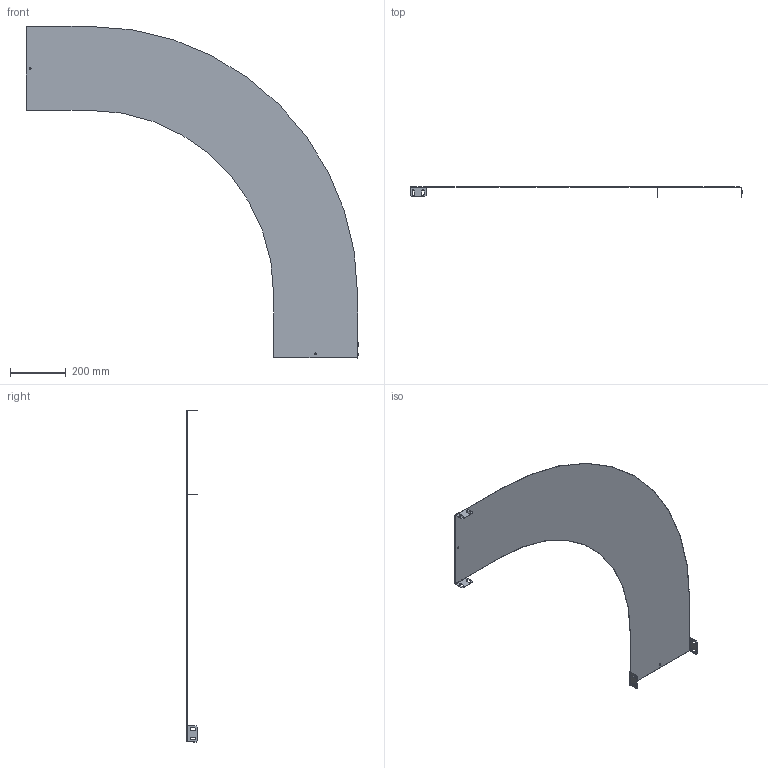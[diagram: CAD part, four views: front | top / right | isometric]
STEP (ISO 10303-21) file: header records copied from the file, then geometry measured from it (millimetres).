
FILE_DESCRIPTION (( 'STEP AP203' ), '1' );
FILE_NAME ('UKD603.STEP', '2015-03-30T13:05:34', ( '' ), ( '' ), 'SwSTEP 2.0', 'SolidWorks 2014', '' );
FILE_SCHEMA (( 'CONFIG_CONTROL_DESIGN' ));
Length unit declared in the file: millimetre
Products named in the file (1): UKD603
Bounding box: 1195.44 x 37 x 1195.44 mm (x, y, z)
Volume: 638151.8 mm3; surface area: 1069770.6 mm2
Topology: 1 solids, 1 shells, 166 faces, 484 edges, 296 vertices
Faces by surface type: plane 128, cylinder 38
Entity records: 5573 total; most frequent: ORIENTED_EDGE 968, DIRECTION 958, CARTESIAN_POINT 947, EDGE_CURVE 484, LINE 344, VECTOR 344, AXIS2_PLACEMENT_3D 307, VERTEX_POINT 296
